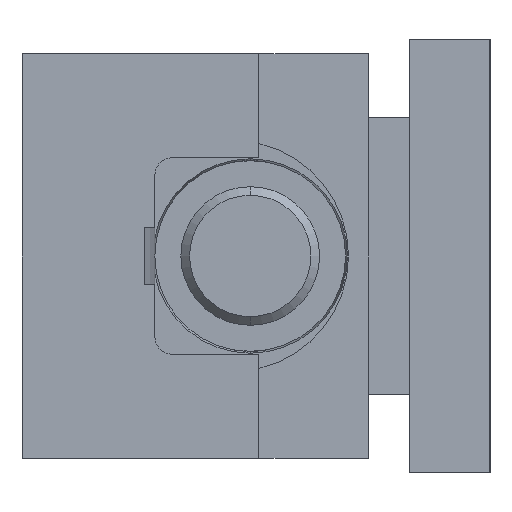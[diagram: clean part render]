
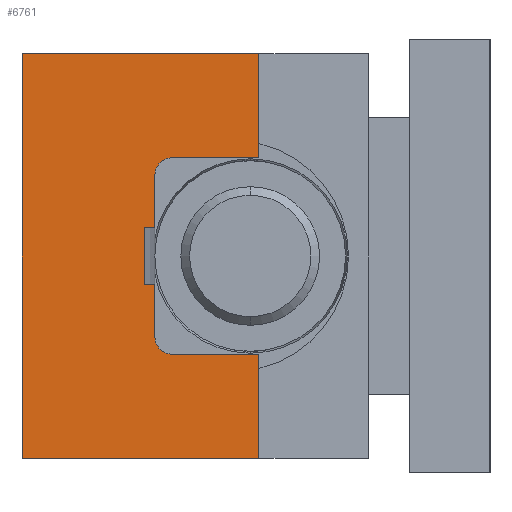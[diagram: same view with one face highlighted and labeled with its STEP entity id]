
A CAD part, left-side view. The second image highlights one B-rep face of the part: STEP entity #6761.
In plain terms, the highlighted planar face has unit normal (-1, 0, 0) as drawn and (0, 0, -1) by its records, which use the part's own axes.
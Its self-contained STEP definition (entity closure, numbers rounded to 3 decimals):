
#62 = ORIENTED_EDGE ( 'NONE', *, *, #14926, .F. ) ;
#147 = DIRECTION ( 'NONE',  ( -1., 0., 0. ) ) ;
#323 = VECTOR ( 'NONE', #8155, 1000. ) ;
#492 = EDGE_CURVE ( 'NONE', #8628, #2640, #2129, .T. ) ;
#589 = LINE ( 'NONE', #8846, #14958 ) ;
#609 = EDGE_CURVE ( 'NONE', #8384, #10992, #3926, .T. ) ;
#690 = CARTESIAN_POINT ( 'NONE',  ( 35., -18., -9.5 ) ) ;
#1051 = VERTEX_POINT ( 'NONE', #1413 ) ;
#1091 = ORIENTED_EDGE ( 'NONE', *, *, #12951, .F. ) ;
#1155 = CARTESIAN_POINT ( 'NONE',  ( -35., 23., -9.5 ) ) ;
#1226 = ORIENTED_EDGE ( 'NONE', *, *, #11090, .F. ) ;
#1413 = CARTESIAN_POINT ( 'NONE',  ( 35., 23., -9.5 ) ) ;
#1890 = EDGE_CURVE ( 'NONE', #2640, #10992, #5317, .T. ) ;
#2108 = AXIS2_PLACEMENT_3D ( 'NONE', #7323, #14431, #147 ) ;
#2120 = VERTEX_POINT ( 'NONE', #10577 ) ;
#2129 = LINE ( 'NONE', #7024, #4681 ) ;
#2487 = ORIENTED_EDGE ( 'NONE', *, *, #3854, .F. ) ;
#2553 = DIRECTION ( 'NONE',  ( 0., -1., 0. ) ) ;
#2564 = VERTEX_POINT ( 'NONE', #13329 ) ;
#2613 = EDGE_CURVE ( 'NONE', #13942, #8628, #13796, .T. ) ;
#2640 = VERTEX_POINT ( 'NONE', #7706 ) ;
#2794 = VERTEX_POINT ( 'NONE', #690 ) ;
#2987 = CARTESIAN_POINT ( 'NONE',  ( -5., 1.875, -9.5 ) ) ;
#3269 = ORIENTED_EDGE ( 'NONE', *, *, #4999, .T. ) ;
#3494 = LINE ( 'NONE', #1155, #323 ) ;
#3526 = ORIENTED_EDGE ( 'NONE', *, *, #7449, .F. ) ;
#3677 = LINE ( 'NONE', #10923, #13190 ) ;
#3769 = LINE ( 'NONE', #7418, #8959 ) ;
#3789 = ORIENTED_EDGE ( 'NONE', *, *, #2613, .F. ) ;
#3854 = EDGE_CURVE ( 'NONE', #11387, #8760, #589, .T. ) ;
#3875 = CARTESIAN_POINT ( 'NONE',  ( 17., 0., -9.5 ) ) ;
#3926 = CIRCLE ( 'NONE', #13001, 3. ) ;
#3927 = DIRECTION ( 'NONE',  ( 0., -1., 0. ) ) ;
#3951 = LINE ( 'NONE', #3875, #12697 ) ;
#4140 = DIRECTION ( 'NONE',  ( 0., 1., 0. ) ) ;
#4681 = VECTOR ( 'NONE', #13987, 1000. ) ;
#4777 = VERTEX_POINT ( 'NONE', #13882 ) ;
#4809 = CARTESIAN_POINT ( 'NONE',  ( 0., 0., -9.5 ) ) ;
#4836 = EDGE_CURVE ( 'NONE', #8760, #9965, #14733, .T. ) ;
#4918 = DIRECTION ( 'NONE',  ( 0., 1., 0. ) ) ;
#4999 = EDGE_CURVE ( 'NONE', #11387, #2120, #3769, .T. ) ;
#5146 = VECTOR ( 'NONE', #13939, 1000. ) ;
#5255 = CARTESIAN_POINT ( 'NONE',  ( 5., 0., -9.5 ) ) ;
#5317 = LINE ( 'NONE', #10102, #6567 ) ;
#5601 = FACE_OUTER_BOUND ( 'NONE', #10669, .T. ) ;
#5944 = LINE ( 'NONE', #10737, #12447 ) ;
#5996 = ORIENTED_EDGE ( 'NONE', *, *, #4836, .F. ) ;
#6567 = VECTOR ( 'NONE', #4140, 1000. ) ;
#6601 = VECTOR ( 'NONE', #13539, 1000. ) ;
#6672 = EDGE_CURVE ( 'NONE', #4777, #2794, #13096, .T. ) ;
#6723 = CARTESIAN_POINT ( 'NONE',  ( -14., 0., -9.5 ) ) ;
#6761 = ADVANCED_FACE ( 'NONE', ( #5601 ), #10390, .T. ) ;
#7018 = ORIENTED_EDGE ( 'NONE', *, *, #609, .T. ) ;
#7024 = CARTESIAN_POINT ( 'NONE',  ( -35., -18., -9.5 ) ) ;
#7181 = DIRECTION ( 'NONE',  ( 0., -1., 0. ) ) ;
#7211 = LINE ( 'NONE', #11475, #5146 ) ;
#7323 = CARTESIAN_POINT ( 'NONE',  ( 14., -3., -9.5 ) ) ;
#7418 = CARTESIAN_POINT ( 'NONE',  ( -5., 0., -9.5 ) ) ;
#7449 = EDGE_CURVE ( 'NONE', #2564, #4777, #3677, .T. ) ;
#7610 = VECTOR ( 'NONE', #15467, 1000. ) ;
#7706 = CARTESIAN_POINT ( 'NONE',  ( -17., -18., -9.5 ) ) ;
#8109 = AXIS2_PLACEMENT_3D ( 'NONE', #4809, #13259, #10796 ) ;
#8155 = DIRECTION ( 'NONE',  ( -1., 0., 0. ) ) ;
#8384 = VERTEX_POINT ( 'NONE', #6723 ) ;
#8409 = CIRCLE ( 'NONE', #2108, 3. ) ;
#8576 = CARTESIAN_POINT ( 'NONE',  ( -14., -3., -9.5 ) ) ;
#8628 = VERTEX_POINT ( 'NONE', #13381 ) ;
#8702 = CARTESIAN_POINT ( 'NONE',  ( 5., 0., -9.5 ) ) ;
#8760 = VERTEX_POINT ( 'NONE', #15323 ) ;
#8846 = CARTESIAN_POINT ( 'NONE',  ( -5., 1.875, -9.5 ) ) ;
#8872 = CARTESIAN_POINT ( 'NONE',  ( -35., -18., -9.5 ) ) ;
#8959 = VECTOR ( 'NONE', #7181, 1000. ) ;
#9724 = ORIENTED_EDGE ( 'NONE', *, *, #11229, .F. ) ;
#9767 = DIRECTION ( 'NONE',  ( -1., 0., 0. ) ) ;
#9848 = VECTOR ( 'NONE', #3927, 1000. ) ;
#9965 = VERTEX_POINT ( 'NONE', #5255 ) ;
#9984 = ORIENTED_EDGE ( 'NONE', *, *, #492, .F. ) ;
#10102 = CARTESIAN_POINT ( 'NONE',  ( -17., 0., -9.5 ) ) ;
#10103 = DIRECTION ( 'NONE',  ( 1., 0., 0. ) ) ;
#10390 = PLANE ( 'NONE',  #8109 ) ;
#10577 = CARTESIAN_POINT ( 'NONE',  ( -5., 0., -9.5 ) ) ;
#10669 = EDGE_LOOP ( 'NONE', ( #2487, #3269, #9724, #7018, #10848, #9984, #3789, #1091, #1226, #13413, #3526, #13742, #62, #5996 ) ) ;
#10737 = CARTESIAN_POINT ( 'NONE',  ( 35., 23., -9.5 ) ) ;
#10796 = DIRECTION ( 'NONE',  ( -1., 0., 0. ) ) ;
#10848 = ORIENTED_EDGE ( 'NONE', *, *, #1890, .F. ) ;
#10923 = CARTESIAN_POINT ( 'NONE',  ( 17., -18., -9.5 ) ) ;
#10992 = VERTEX_POINT ( 'NONE', #11523 ) ;
#11090 = EDGE_CURVE ( 'NONE', #2794, #1051, #5944, .T. ) ;
#11229 = EDGE_CURVE ( 'NONE', #8384, #2120, #3951, .T. ) ;
#11266 = DIRECTION ( 'NONE',  ( 1., 0., 0. ) ) ;
#11387 = VERTEX_POINT ( 'NONE', #2987 ) ;
#11475 = CARTESIAN_POINT ( 'NONE',  ( 17., 0., -9.5 ) ) ;
#11523 = CARTESIAN_POINT ( 'NONE',  ( -17., -3., -9.5 ) ) ;
#12072 = DIRECTION ( 'NONE',  ( 0., 0., 1. ) ) ;
#12447 = VECTOR ( 'NONE', #4918, 1000. ) ;
#12677 = CARTESIAN_POINT ( 'NONE',  ( 14., 0., -9.5 ) ) ;
#12697 = VECTOR ( 'NONE', #11266, 1000. ) ;
#12951 = EDGE_CURVE ( 'NONE', #1051, #13942, #3494, .T. ) ;
#13001 = AXIS2_PLACEMENT_3D ( 'NONE', #8576, #12072, #9767 ) ;
#13096 = LINE ( 'NONE', #15308, #7610 ) ;
#13190 = VECTOR ( 'NONE', #2553, 1000. ) ;
#13259 = DIRECTION ( 'NONE',  ( 0., 0., -1. ) ) ;
#13329 = CARTESIAN_POINT ( 'NONE',  ( 17., -3., -9.5 ) ) ;
#13381 = CARTESIAN_POINT ( 'NONE',  ( -35., -18., -9.5 ) ) ;
#13413 = ORIENTED_EDGE ( 'NONE', *, *, #6672, .F. ) ;
#13539 = DIRECTION ( 'NONE',  ( 0., -1., 0. ) ) ;
#13742 = ORIENTED_EDGE ( 'NONE', *, *, #14559, .T. ) ;
#13796 = LINE ( 'NONE', #8872, #9848 ) ;
#13882 = CARTESIAN_POINT ( 'NONE',  ( 17., -18., -9.5 ) ) ;
#13939 = DIRECTION ( 'NONE',  ( 1., 0., 0. ) ) ;
#13942 = VERTEX_POINT ( 'NONE', #15164 ) ;
#13987 = DIRECTION ( 'NONE',  ( 1., 0., 0. ) ) ;
#14431 = DIRECTION ( 'NONE',  ( 0., 0., 1. ) ) ;
#14559 = EDGE_CURVE ( 'NONE', #2564, #14764, #8409, .T. ) ;
#14733 = LINE ( 'NONE', #8702, #6601 ) ;
#14764 = VERTEX_POINT ( 'NONE', #12677 ) ;
#14926 = EDGE_CURVE ( 'NONE', #9965, #14764, #7211, .T. ) ;
#14958 = VECTOR ( 'NONE', #10103, 1000. ) ;
#15164 = CARTESIAN_POINT ( 'NONE',  ( -35., 23., -9.5 ) ) ;
#15308 = CARTESIAN_POINT ( 'NONE',  ( 35., -18., -9.5 ) ) ;
#15323 = CARTESIAN_POINT ( 'NONE',  ( 5., 1.875, -9.5 ) ) ;
#15467 = DIRECTION ( 'NONE',  ( 1., 0., 0. ) ) ;
